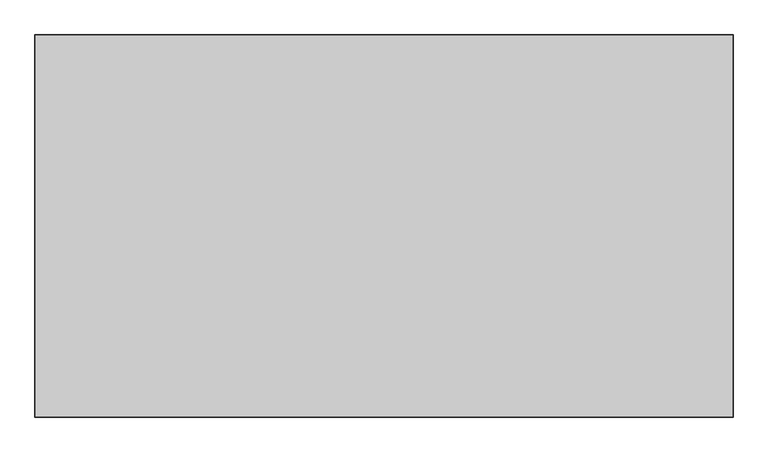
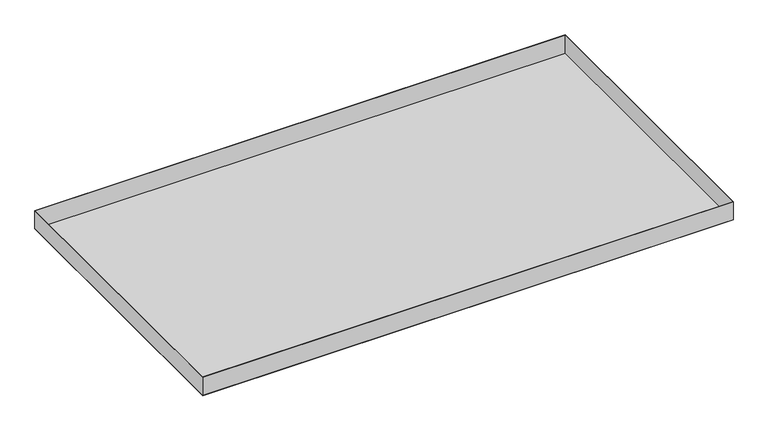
"""IFC4 building model written with IfcOpenShell, lengths in millimetres: proxy geometry, durlum_S5-100_RHOMBOS_panel : durlum_S5-100_RHOMBOS_panel."""

from ifc_helpers import new_model, si_unit, frame, origin, origin_with_axes, place, context, project, spatial, polyline, outline, extrude, source, transform, mapped, element, save


def generic_models_68f9382c(model_context):
    return source(origin(), model_context, "Body", "SweptSolid", [
        extrude(outline(polyline([(547.0, 299.75), (547.0, -299.75), (-547.0, -299.75), (-547.0, 299.75), (547.0, 299.75)]), holes=[polyline([(546.4, 299.15), (-546.4, 299.15), (-546.4, -299.15), (546.4, -299.15), (546.4, 299.15)])]), frame((0.0, 0.0, 0.6), z_axis=(0.0, 0.0, 1.0), x_axis=(1.0, 0.0, 0.0)), (0.0, 0.0, 1.0), 39.4),
        extrude(outline(polyline([(547.0, 299.75), (547.0, -299.75), (-547.0, -299.75), (-547.0, 299.75), (547.0, 299.75)])), origin_with_axes(), (0.0, 0.0, 1.0), 0.6),
    ])


if __name__ == "__main__":
    model = new_model("IFC4")
    model_context = context("Model", 3, world=origin())
    ifc_project = project(units=[si_unit("LENGTHUNIT", "METRE", prefix="MILLI")], contexts=[model_context])
    site = spatial("IfcSite", under=ifc_project)
    building = spatial("IfcBuilding", under=site)
    placement = place(None, origin())
    generic_models_shape = generic_models_68f9382c(model_context)
    element("IfcBuildingElementProxy", 1, Name="durlum_S5-100_RHOMBOS_panel : durlum_S5-100_RHOMBOS_panel", ObjectType="durlum_S5-100_RHOMBOS_panel : durlum_S5-100_RHOMBOS_panel", at=placement, inside=building, context=model_context, shape_type="MappedRepresentation", body=[
        mapped(generic_models_shape, transform((0.0, 0.0, 0.0), x_axis=(1.0, 0.0, 0.0), y_axis=(0.0, 1.0, 0.0), z_axis=(0.0, 0.0, 1.0))),
    ])
    save(model, "model.ifc")
